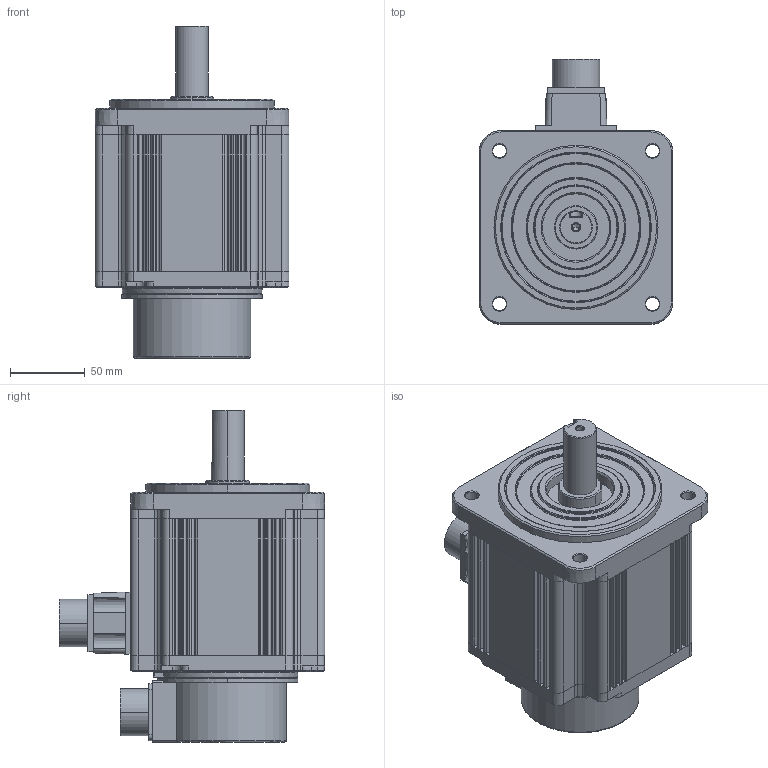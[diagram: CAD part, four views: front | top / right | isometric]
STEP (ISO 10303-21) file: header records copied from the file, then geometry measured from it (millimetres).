
FILE_DESCRIPTION((''),'2;1');
FILE_NAME('ECMA-EX1315ES','2015-04-01T',('MIO.CHEN'),(''),'PRO/ENGINEER BY PARAMETRIC TECHNOLOGY CORPORATION, 2010180','PRO/ENGINEER BY PARAMETRIC TECHNOLOGY CORPORATION, 2010180','');
FILE_SCHEMA(('AUTOMOTIVE_DESIGN_CC2 { 1 2 10303 214 -1 1 5 2 }'));
Length unit declared in the file: millimetre
Products named in the file (1): ECMA-EX1315ES
Bounding box: 130 x 177.75 x 222.5 mm (x, y, z)
Volume: 2188075.7 mm3; surface area: 141622.9 mm2
Topology: 1 solids, 1 shells, 542 faces, 1312 edges, 781 vertices
Faces by surface type: plane 270, cylinder 142, cone 102, torus 21, sphere 4, bspline 3
Entity records: 15867 total; most frequent: CARTESIAN_POINT 3001, DIRECTION 2789, ORIENTED_EDGE 2612, EDGE_CURVE 1306, AXIS2_PLACEMENT_3D 997, VECTOR 795, LINE 795, VERTEX_POINT 781
